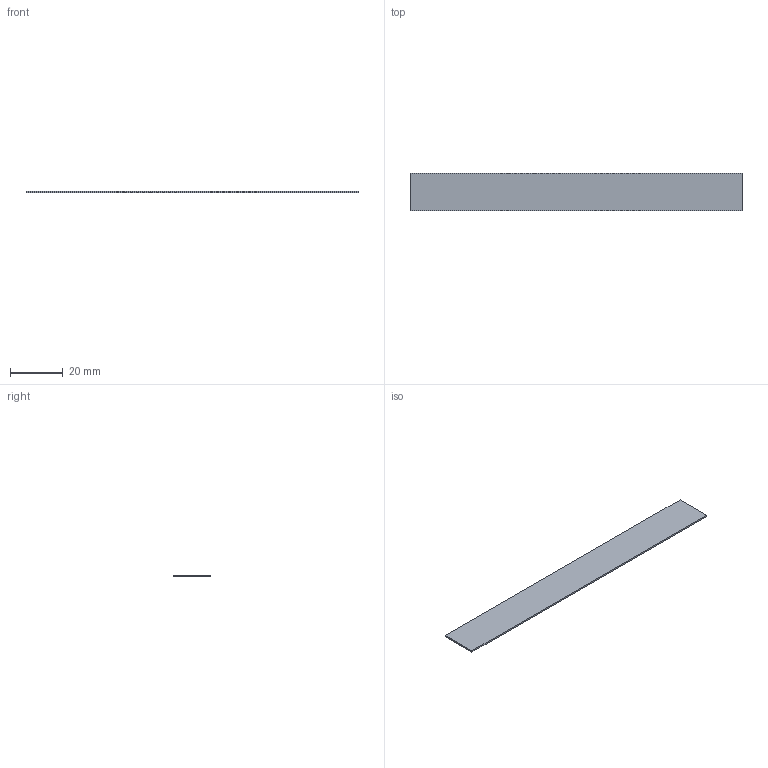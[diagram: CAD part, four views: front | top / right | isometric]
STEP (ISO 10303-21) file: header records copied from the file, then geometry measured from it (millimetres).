
FILE_DESCRIPTION(('Open CASCADE Model'),'2;1');
FILE_NAME('Open CASCADE Shape Model','2026-10-21T18:50:24',('Author'),( 'Open CASCADE'),'Open CASCADE STEP processor 8.0','build123d', 'Unknown');
FILE_SCHEMA(('AUTOMOTIVE_DESIGN { 1 0 10303 214 1 1 1 1 }'));
Length unit declared in the file: millimetre
Products named in the file (2): =>[0:1:1:2]; COMPOUND
Assembly tree (1 placements, depth 2):
  =>[0:1:1:2]
    COMPOUND
Bounding box: 125.85 x 14.3 x 0.6 mm (x, y, z)
Volume: 1079.8 mm3; surface area: 3767.5 mm2
Topology: 1 solids, 1 shells, 6 faces, 12 edges, 8 vertices
Faces by surface type: plane 6
Entity records: 340 total; most frequent: CARTESIAN_POINT 52, DIRECTION 52, LINE 36, VECTOR 36, ORIENTED_EDGE 24, PCURVE 24, DEFINITIONAL_REPRESENTATION 24, EDGE_CURVE 12
